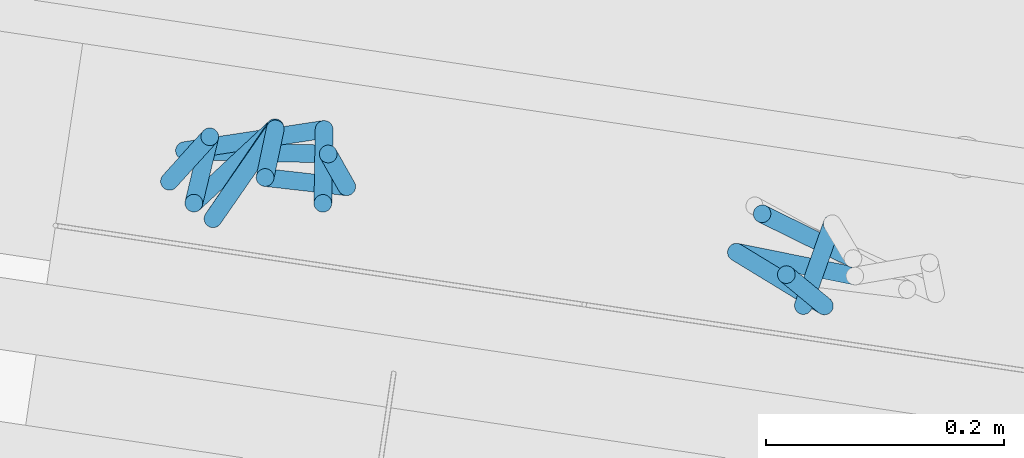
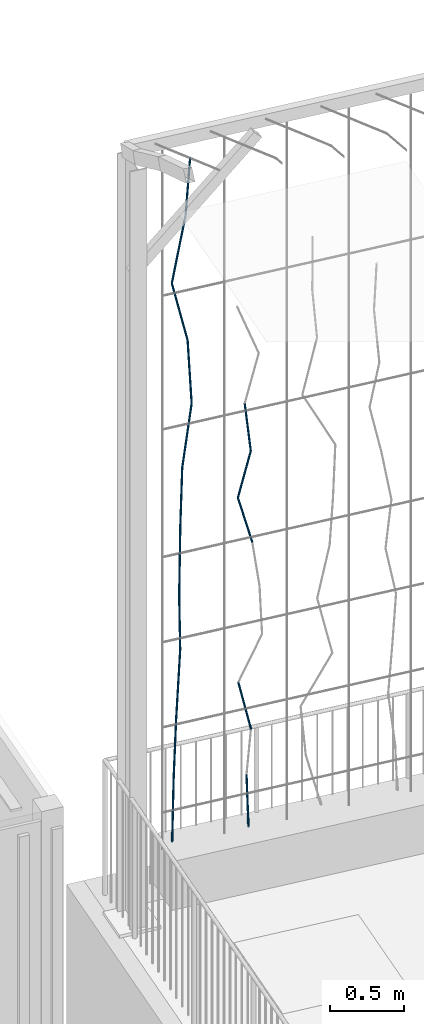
# One storey, part 107 of 142: 16 members, 1 element without a shape of its own.
"""IFC4 building model written with IfcOpenShell, lengths in metres."""

from ifc_helpers import new_model, si_unit, direction, frame, origin_with_axes, place, context, subcontext, project, spatial, circle, extrude, material, material_profile, profile_set, profile_usage, type_object, element, aggregate, save


model = new_model("IFC4")

# Units and contexts
model_context = context("Model", 3, precision=1e-05, world=origin_with_axes(), true_north=direction((0.0, 1.0)))
body_context = subcontext(model_context, "Body", "Model", "MODEL_VIEW")
ifc_project = project(units=[si_unit("VOLUMEUNIT", "CUBIC_METRE"), si_unit("LENGTHUNIT", "METRE"), si_unit("AREAUNIT", "SQUARE_METRE")], contexts=[model_context])

# Site, building, storey
site_placement = place(None, origin_with_axes())
site = spatial("IfcSite", under=ifc_project, at=site_placement, Name="Lares · Rua das Mercês · artigo 4771")
building_placement = place(site_placement, frame((12.0, 10.2, 13.9), z_axis=(0.0, 0.0, 1.0), x_axis=(0.989015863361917, -0.147809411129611, 0.0)))
building = spatial("IfcBuilding", under=site, at=building_placement, Name="Casa Sobreposta")
storey_placement = place(building_placement, origin_with_axes())
storey = spatial("IfcBuildingStorey", under=building, at=storey_placement, Name="00 · Habitação e estacionamento", Elevation=13.9)

# Assembly, members
assembly_placement = place(storey_placement, origin_with_axes())
assembly = element("IfcElementAssembly", 1, at=assembly_placement, inside=storey, Name="Fachada sul e pátio · estrutura e trepadeiras", ObjectType="LIVING_SHADE_TRELLIS", PredefinedType="USERDEFINED")
ifc_material = material(Name="Ramos de trepadeiras", Category="wood")
ifc_material_profile = material_profile(ifc_material, circle(Radius=0.0075))
ifc_profile_set = profile_set([ifc_material_profile], Name="D0.015")
ifc_profile_usage_1 = profile_usage(ifc_profile_set)
member_type = type_object("IfcMemberType", Name="D0.015 / vine_wood", PredefinedType="NOTDEFINED", material=ifc_profile_set)
member_1_placement = place(assembly_placement, frame((-5.61062551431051, 6.53102255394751, 0.35), z_axis=(0.0548183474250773, 0.0823641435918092, 0.995093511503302), x_axis=(0.83247493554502, -0.554062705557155, 0.0)))
member_1 = element("IfcMember", 2, at=member_1_placement, type_object=member_type, material=ifc_profile_usage_1, Name="Trepadeiras · ramo", context=body_context, shape_type="SweptSolid", body=[
    extrude(circle(Radius=0.0075), origin_with_axes(), (0.0, 0.0, 1.0), 0.511123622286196),
])
ifc_profile_usage_2 = profile_usage(ifc_profile_set)
member_2_placement = place(assembly_placement, frame((-5.58260656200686, 6.57312081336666, 0.858615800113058), z_axis=(-0.00976761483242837, -0.111772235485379, 0.993685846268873), x_axis=(-0.996203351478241, 0.0870567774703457, 0.0)))
member_2 = element("IfcMember", 3, at=member_2_placement, type_object=member_type, material=ifc_profile_usage_2, Name="Trepadeiras · ramo", context=body_context, shape_type="SweptSolid", body=[
    extrude(circle(Radius=0.0075), origin_with_axes(), (0.0, 0.0, 1.0), 0.511847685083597),
])
ifc_profile_usage_3 = profile_usage(ifc_profile_set)
member_3_placement = place(assembly_placement, frame((-5.58760609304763, 6.51591045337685, 1.36723160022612), z_axis=(0.112625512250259, 0.141112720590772, 0.983566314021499), x_axis=(0.781583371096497, -0.6238007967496, 0.0)))
member_3 = element("IfcMember", 4, at=member_3_placement, type_object=member_type, material=ifc_profile_usage_3, Name="Trepadeiras · ramo", context=body_context, shape_type="SweptSolid", body=[
    extrude(circle(Radius=0.0075), origin_with_axes(), (0.0, 0.0, 1.0), 0.517113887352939),
])
ifc_profile_usage_4 = profile_usage(ifc_profile_set)
member_4_placement = place(assembly_placement, frame((-5.52936587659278, 6.58888180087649, 1.87584740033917), z_axis=(-0.0781133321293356, -0.161839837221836, 0.983720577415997), x_axis=(-0.90058702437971, 0.434675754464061, 0.0)))
member_4 = element("IfcMember", 5, at=member_4_placement, type_object=member_type, material=ifc_profile_usage_4, Name="Trepadeiras · ramo", context=body_context, shape_type="SweptSolid", body=[
    extrude(circle(Radius=0.0075), origin_with_axes(), (0.0, 0.0, 1.0), 0.517032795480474),
])
ifc_profile_usage_5 = profile_usage(ifc_profile_set)
member_5_placement = place(assembly_placement, frame((-5.56975303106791, 6.50520529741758, 2.38446320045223), z_axis=(0.078738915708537, 0.159780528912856, 0.984007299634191), x_axis=(0.89699768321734, -0.442035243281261, 0.0)))
member_5 = element("IfcMember", 6, at=member_5_placement, type_object=member_type, material=ifc_profile_usage_5, Name="Trepadeiras · ramo", context=body_context, shape_type="SweptSolid", body=[
    extrude(circle(Radius=0.0075), origin_with_axes(), (0.0, 0.0, 1.0), 0.516882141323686),
])
ifc_profile_usage_6 = profile_usage(ifc_profile_set)
member_6_placement = place(assembly_placement, frame((-5.52905429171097, 6.58779299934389, 2.89307900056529), z_axis=(-0.00477616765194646, -0.0816811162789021, 0.996647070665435), x_axis=(-0.998294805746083, 0.0583736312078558, 0.0)))
member_6 = element("IfcMember", 7, at=member_6_placement, type_object=member_type, material=ifc_profile_usage_6, Name="Trepadeiras · ramo", context=body_context, shape_type="SweptSolid", body=[
    extrude(circle(Radius=0.0075), origin_with_axes(), (0.0, 0.0, 1.0), 0.510326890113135),
])
ifc_profile_usage_7 = profile_usage(ifc_profile_set)
member_7_placement = place(assembly_placement, frame((-5.53149169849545, 6.54610892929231, 3.40169480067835), z_axis=(0.134710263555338, 0.00481535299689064, 0.990873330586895), x_axis=(0.0357231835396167, -0.999361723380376, -7.96985533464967e-19)))
member_7 = element("IfcMember", 8, at=member_7_placement, type_object=member_type, material=ifc_profile_usage_7, Name="Trepadeiras · ramo", context=body_context, shape_type="SweptSolid", body=[
    extrude(circle(Radius=0.0075), origin_with_axes(), (0.0, 0.0, 1.0), 0.513300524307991),
])
ifc_profile_usage_8 = profile_usage(ifc_profile_set)
member_8_placement = place(assembly_placement, frame((-5.46234484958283, 6.54858065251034, 3.91031060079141), z_axis=(-0.0383027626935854, 0.0489541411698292, 0.99806632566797), x_axis=(0.787576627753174, 0.616216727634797, 0.0)))
member_8 = element("IfcMember", 9, at=member_8_placement, type_object=member_type, material=ifc_profile_usage_8, Name="Trepadeiras · ramo", context=body_context, shape_type="SweptSolid", body=[
    extrude(circle(Radius=0.0075), origin_with_axes(), (0.0, 0.0, 1.0), 0.509601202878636),
])
ifc_profile_usage_9 = profile_usage(ifc_profile_set)
member_9_placement = place(assembly_placement, frame((-5.48186398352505, 6.57352774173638, 4.41892640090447), z_axis=(-0.229983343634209, -0.028965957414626, 0.972763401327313), x_axis=(-0.124960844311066, 0.992161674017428, 0.0)))
member_9 = element("IfcMember", 10, at=member_9_placement, type_object=member_type, material=ifc_profile_usage_9, Name="Trepadeiras · ramo", context=body_context, shape_type="SweptSolid", body=[
    extrude(circle(Radius=0.0075), origin_with_axes(), (0.0, 0.0, 1.0), 0.522856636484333),
])
ifc_profile_usage_10 = profile_usage(ifc_profile_set)
member_10_placement = place(assembly_placement, frame((-5.60211230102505, 6.55838269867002, 4.92754220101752), z_axis=(0.217821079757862, 0.0672022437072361, 0.973672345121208), x_axis=(0.294808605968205, -0.955556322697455, 0.0)))
member_10 = element("IfcMember", 11, at=member_10_placement, type_object=member_type, material=ifc_profile_usage_10, Name="Trepadeiras · ramo", context=body_context, shape_type="SweptSolid", body=[
    extrude(circle(Radius=0.0075), origin_with_axes(), (0.0, 0.0, 1.0), 0.522368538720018),
])
ifc_profile_usage_11 = profile_usage(ifc_profile_set)
member_11_placement = place(assembly_placement, frame((-5.48832942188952, 6.59348703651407, 5.43615800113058), z_axis=(0.0159287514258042, -0.120372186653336, 0.992601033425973), x_axis=(-0.991357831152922, -0.131185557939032, 0.0)))
member_11 = element("IfcMember", 12, at=member_11_placement, type_object=member_type, material=ifc_profile_usage_11, Name="Trepadeiras · ramo", context=body_context, shape_type="SweptSolid", body=[
    extrude(circle(Radius=0.0075), origin_with_axes(), (0.0, 0.0, 1.0), 0.512407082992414),
])
ifc_profile_usage_12 = profile_usage(ifc_profile_set)
member_12_placement = place(assembly_placement, frame((-5.06742901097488, 6.50636980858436, 0.35), z_axis=(0.0353901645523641, 0.18278637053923, 0.982515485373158), x_axis=(0.981767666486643, -0.190084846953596, 0.0)))
member_12 = element("IfcMember", 13, at=member_12_placement, type_object=member_type, material=ifc_profile_usage_12, Name="Trepadeiras · ramo", context=body_context, shape_type="SweptSolid", body=[
    extrude(circle(Radius=0.0075), origin_with_axes(), (0.0, 0.0, 1.0), 0.393038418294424),
])
ifc_profile_usage_13 = profile_usage(ifc_profile_set)
member_13_placement = place(assembly_placement, frame((-5.03193614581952, 6.55175918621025, 1.12233266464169), z_axis=(-0.205369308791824, 0.0655980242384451, 0.976483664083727), x_axis=(0.304270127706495, 0.952585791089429, 0.0)))
member_13 = element("IfcMember", 14, at=member_13_placement, type_object=member_type, material=ifc_profile_usage_13, Name="Trepadeiras · ramo", context=body_context, shape_type="SweptSolid", body=[
    extrude(circle(Radius=0.0075), origin_with_axes(), (0.0, 0.0, 1.0), 0.395466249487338),
])
ifc_profile_usage_14 = profile_usage(ifc_profile_set)
member_14_placement = place(assembly_placement, frame((-5.02820856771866, 6.53743615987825, 2.66699799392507), z_axis=(-0.254671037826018, 0.0128912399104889, 0.966941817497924), x_axis=(0.0505544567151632, 0.998721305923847, 0.0)))
member_14 = element("IfcMember", 15, at=member_14_placement, type_object=member_type, material=ifc_profile_usage_14, Name="Trepadeiras · ramo", context=body_context, shape_type="SweptSolid", body=[
    extrude(circle(Radius=0.0075), origin_with_axes(), (0.0, 0.0, 1.0), 0.399368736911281),
])
ifc_profile_usage_15 = profile_usage(ifc_profile_set)
member_15_placement = place(assembly_placement, frame((-5.12991621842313, 6.54258451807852, 3.05316432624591), z_axis=(0.202327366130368, -0.0854035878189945, 0.975586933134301), x_axis=(-0.388881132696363, -0.921287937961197, 0.0)))
member_15 = element("IfcMember", 16, at=member_15_placement, type_object=member_type, material=ifc_profile_usage_15, Name="Trepadeiras · ramo", context=body_context, shape_type="SweptSolid", body=[
    extrude(circle(Radius=0.0075), origin_with_axes(), (0.0, 0.0, 1.0), 0.395829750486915),
])
ifc_profile_usage_16 = profile_usage(ifc_profile_set)
member_16_placement = place(assembly_placement, frame((-5.04982902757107, 6.50877923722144, 3.43933065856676), z_axis=(-0.0916184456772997, 0.0549727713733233, 0.994275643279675), x_axis=(0.514507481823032, 0.857485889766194, 0.0)))
member_16 = element("IfcMember", 17, at=member_16_placement, type_object=member_type, material=ifc_profile_usage_16, Name="Trepadeiras · ramo", context=body_context, shape_type="SweptSolid", body=[
    extrude(circle(Radius=0.0075), origin_with_axes(), (0.0, 0.0, 1.0), 0.388389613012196),
])
aggregate(assembly, [member_1, member_2, member_3, member_4, member_5, member_6, member_7, member_8, member_9, member_10, member_11, member_12, member_13, member_14, member_15, member_16])

save(model, "model.ifc")
